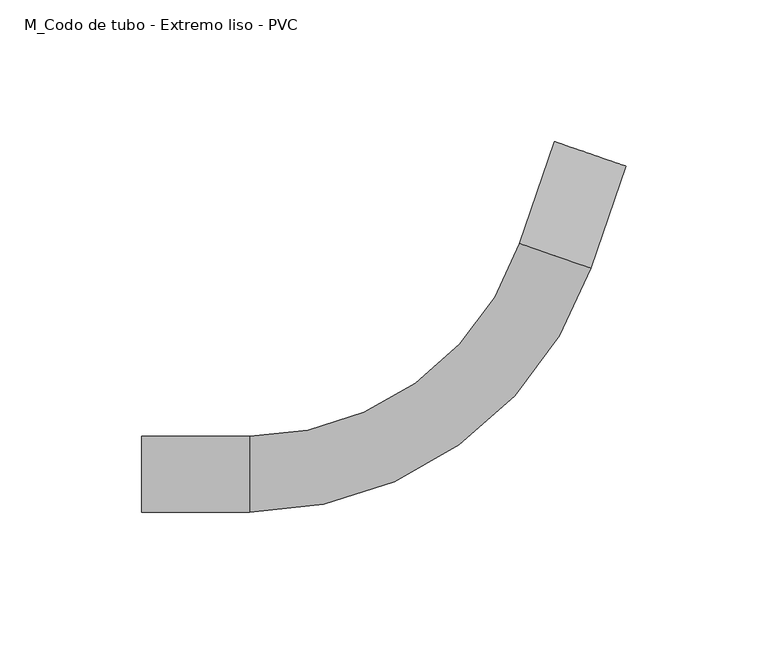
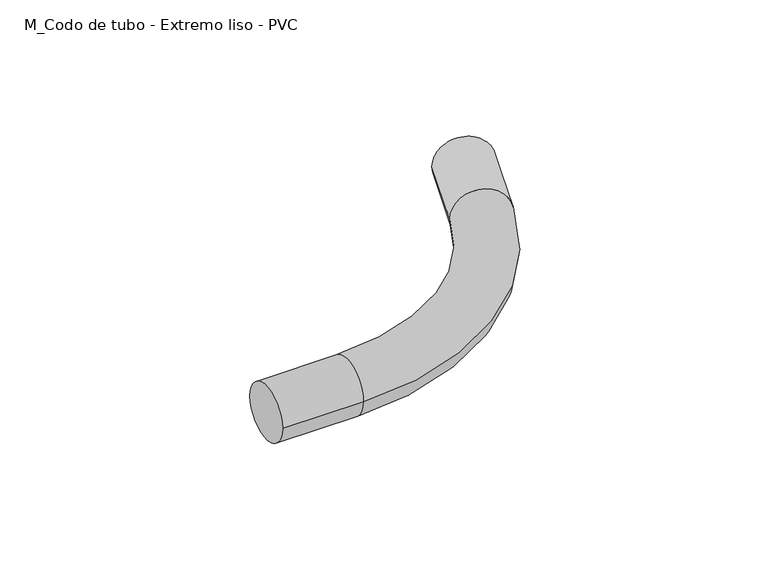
"""IFC4 building model written with IfcOpenShell, lengths in millimetres: cable carrier fitting geometry, M_Codo de tubo - Extremo liso - PVC : CODO ILUMINACION."""

import ifcopenshell
import ifcopenshell.guid

model = None  # the IFC model being written
_history = None  # IfcOwnerHistory: only IFC2X3 demands one
_inside = {}  # id of a spatial element -> (the spatial element, [elements in it])
_under = {}  # id of a project, library or spatial element -> (it, [spatial elements below it])
_declared = {}  # id of a project -> (the project, [libraries it declares])
_typed = {}  # id of a type object -> (the type object, [elements of that type])
_made_of = {}  # id of a material, layer set ... -> (it, [elements and type objects made of it])


def new_model(schema):
    """Start an empty IFC model of exactly this schema.

    Asked for "IFC4X3", IfcOpenShell would pick the latest addendum, in which some entities
    have other attributes; the version numbers below select the first issue.
    IFC2X3 requires an IfcOwnerHistory on every rooted entity: one is made here for all.
    """
    global model, _history
    if schema == "IFC4X3":
        model = ifcopenshell.file(schema_version=(4, 3, 0, 0))
    else:
        model = ifcopenshell.file(schema=schema)
    _inside.clear()
    _under.clear()
    _declared.clear()
    _typed.clear()
    _made_of.clear()
    _history = None
    if model.schema == "IFC2X3":
        org = make("IfcOrganization", Name="unknown")
        user = make(
            "IfcPersonAndOrganization",
            ThePerson=make("IfcPerson", FamilyName="unknown"),
            TheOrganization=org,
        )
        app = make(
            "IfcApplication",
            ApplicationDeveloper=org,
            Version="unknown",
            ApplicationFullName="unknown",
            ApplicationIdentifier="unknown",
        )
        _history = make(
            "IfcOwnerHistory",
            OwningUser=user,
            OwningApplication=app,
            ChangeAction="ADDED",
            CreationDate=0,
        )
    return model


def make(cls, **values):
    """One entity of the class cls with the attributes given. An attribute that is None is left unset."""
    return model.create_entity(
        cls, **{name: value for name, value in values.items() if value is not None}
    )


def rooted(cls, **values):
    """An entity with a GlobalId (a new one), such as an element, a storey or a relation."""
    return make(cls, GlobalId=ifcopenshell.guid.new(), OwnerHistory=_history, **values)


def si_unit(unit_type, name, prefix=None):
    """IfcSIUnit, for example si_unit("LENGTHUNIT", "METRE", prefix="MILLI")."""
    return make("IfcSIUnit", UnitType=unit_type, Prefix=prefix, Name=name)


def assignment(units):
    """IfcUnitAssignment: the units of a project."""
    return None if units is None else make("IfcUnitAssignment", Units=units)


def point(xyz):
    """IfcCartesianPoint."""
    return None if xyz is None else make("IfcCartesianPoint", Coordinates=xyz)


def direction(xyz):
    """IfcDirection."""
    return None if xyz is None else make("IfcDirection", DirectionRatios=xyz)


def frame(location, z_axis=None, x_axis=None):
    """IfcAxis2Placement3D, a coordinate frame: its origin and axes. An axis left out is left unset."""
    return make(
        "IfcAxis2Placement3D",
        Location=point(location),
        Axis=direction(z_axis),
        RefDirection=direction(x_axis),
    )


def origin():
    """The frame at (0, 0, 0) with its axes left unset."""
    return frame((0.0, 0.0, 0.0))


def place(relative_to, where):
    """IfcLocalPlacement: puts the frame where relative to a parent placement (None: the world)."""
    return make(
        "IfcLocalPlacement", PlacementRelTo=relative_to, RelativePlacement=where
    )


def context(
    kind, dimensions, precision=None, world=None, true_north=None, identifier=None
):
    """IfcGeometricRepresentationContext, for example the 3D "Model" context."""
    return make(
        "IfcGeometricRepresentationContext",
        ContextIdentifier=identifier,
        ContextType=kind,
        CoordinateSpaceDimension=dimensions,
        Precision=precision,
        WorldCoordinateSystem=world,
        TrueNorth=true_north,
    )


def project(units=None, contexts=None):
    """IfcProject with its units and contexts."""
    return rooted(
        "IfcProject",
        Name="project",
        RepresentationContexts=contexts,
        UnitsInContext=assignment(units),
    )


def spatial(cls, under=None, at=None, **own):
    """A site, building, storey or space (cls), placed at a placement, below another one or the project."""
    s = rooted(cls, ObjectPlacement=at, **own)
    if under is not None:
        _under.setdefault(under.id(), (under, []))[1].append(s)
    return s


def circle_curve(where, radius):
    """IfcCircle in the frame where."""
    return make("IfcCircle", Position=where, Radius=radius)


def ellipse_curve(where, semi_axis1, semi_axis2):
    """IfcEllipse in the frame where."""
    return make(
        "IfcEllipse", Position=where, SemiAxis1=semi_axis1, SemiAxis2=semi_axis2
    )


def trimmed(basis, trim1, trim2, sense, master):
    """IfcTrimmedCurve: the piece of a basis curve between two trims."""
    return make(
        "IfcTrimmedCurve",
        BasisCurve=basis,
        Trim1=trim1,
        Trim2=trim2,
        SenseAgreement=sense,
        MasterRepresentation=master,
    )


def shape(context_of_items, identifier, shape_type, items):
    """IfcShapeRepresentation: the items that make up one representation, for example the "Body"."""
    return make(
        "IfcShapeRepresentation",
        ContextOfItems=context_of_items,
        RepresentationIdentifier=identifier,
        RepresentationType=shape_type,
        Items=items,
    )


def source(mapping_origin, context_of_items, identifier, shape_type, items):
    """IfcRepresentationMap: a shape defined once, which mapped items show again and again."""
    return make(
        "IfcRepresentationMap",
        MappingOrigin=mapping_origin,
        MappedRepresentation=shape(context_of_items, identifier, shape_type, items),
    )


def transform(
    local_origin,
    x_axis=None,
    y_axis=None,
    z_axis=None,
    scale=None,
    scale2=None,
    scale3=None,
    uniform=True,
):
    """IfcCartesianTransformationOperator3D, or its non-uniform kind. x_axis, y_axis, z_axis: its Axis1, 2, 3."""
    if uniform:
        return make(
            "IfcCartesianTransformationOperator3D",
            Axis1=direction(x_axis),
            Axis2=direction(y_axis),
            LocalOrigin=point(local_origin),
            Scale=scale,
            Axis3=direction(z_axis),
        )
    return make(
        "IfcCartesianTransformationOperator3DnonUniform",
        Axis1=direction(x_axis),
        Axis2=direction(y_axis),
        LocalOrigin=point(local_origin),
        Scale=scale,
        Axis3=direction(z_axis),
        Scale2=scale2,
        Scale3=scale3,
    )


def mapped(mapping_source, mapping_target):
    """IfcMappedItem: shows the shape of a source again, moved by a transform."""
    return make(
        "IfcMappedItem", MappingSource=mapping_source, MappingTarget=mapping_target
    )


def made_of(thing, what):
    """Note that an element or type object is made of a material, layer set ...; save() writes the relation."""
    if what is not None:
        _made_of.setdefault(what.id(), (what, []))[1].append(thing)
    return thing


def element(
    cls,
    number,
    at=None,
    inside=None,
    cuts=None,
    type_object=None,
    material=None,
    context=None,
    identifier="Body",
    shape_type=None,
    held_by="IfcProductDefinitionShape",
    body=None,
    shapes=None,
    **own,
):
    """One element of the class cls, such as IfcWall. Its Tag is "e" and its number.

    at: its placement. inside: the storey or other place that contains it. cuts: it is an
    opening in that element (IfcRelVoidsElement). A single representation is given by context,
    identifier, shape_type and body (its items); several are given by shapes. held_by: the class
    of the entity that holds the representations. save() writes the other relations.
    """
    e = rooted(cls, Tag="e%d" % number, ObjectPlacement=at, **own)
    if body is not None:
        shapes = [shape(context, identifier, shape_type, body)]
    if shapes is not None:
        e.Representation = make(held_by, Representations=shapes)
    if inside is not None:
        _inside.setdefault(inside.id(), (inside, []))[1].append(e)
    if cuts is not None:
        rooted(
            "IfcRelVoidsElement", RelatingBuildingElement=cuts, RelatedOpeningElement=e
        )
    if type_object is not None:
        _typed.setdefault(type_object.id(), (type_object, []))[1].append(e)
    return made_of(e, material)


def aggregate(whole, parts):
    """IfcRelAggregates: a whole, such as a stair, and the parts it consists of."""
    return rooted("IfcRelAggregates", RelatingObject=whole, RelatedObjects=parts)


def save(model, path):
    """Write the relations noted so far, then the file.

    IfcRelAggregates (storeys below a building ...), IfcRelContainedInSpatialStructure (elements
    in a storey), IfcRelDefinesByType, IfcRelAssociatesMaterial and IfcRelDeclares: one each for
    every whole, place, type object, material and project.
    """
    for whole, parts in _under.values():
        aggregate(whole, parts)
    for where, things in _inside.values():
        rooted(
            "IfcRelContainedInSpatialStructure",
            RelatedElements=things,
            RelatingStructure=where,
        )
    for kind, things in _typed.values():
        rooted("IfcRelDefinesByType", RelatedObjects=things, RelatingType=kind)
    for what, things in _made_of.values():
        rooted("IfcRelAssociatesMaterial", RelatedObjects=things, RelatingMaterial=what)
    for by, libraries in _declared.values():
        rooted("IfcRelDeclares", RelatingContext=by, RelatedDefinitions=libraries)
    model.write(path)


def plane_surface(at):
    """IfcPlane: the flat surface through the origin of the frame at, square to its z axis."""
    return make("IfcPlane", Position=at)


def cylinder_surface(at, radius):
    """IfcCylindricalSurface: all points at the distance radius from the z axis of the frame at."""
    return make("IfcCylindricalSurface", Position=at, Radius=radius)


def revolved_surface(curve, axis_point, axis_direction):
    """IfcSurfaceOfRevolution: the curve turned about the line through axis_point along axis_direction."""
    return make(
        "IfcSurfaceOfRevolution",
        SweptCurve=make("IfcArbitraryOpenProfileDef", ProfileType="CURVE", Curve=curve),
        AxisPosition=make("IfcAxis1Placement", Location=point(axis_point), Axis=direction(axis_direction)),
    )


def advanced_brep(points, edges, surfaces, faces):
    """IfcAdvancedBrep: a solid bounded by faces that lie on surfaces and meet in shared edges.

    An edge is (start, end): straight between two places in points (the first is 0);
    or (start, end, curve); or (start, end, curve, False) where it runs against its curve.
    A face is (place in surfaces, loops), or (place, loops, False) where it looks against
    its surface's normal. A loop lists edges by number (the first is 1), with a minus sign
    where the edge is run from its end to its start. The first loop is the outer one.
    """
    corners = [point(p) for p in points]
    vertices = [make("IfcVertexPoint", VertexGeometry=c) for c in corners]
    made = []
    for start, end, *more in edges:
        made.append(
            make(
                "IfcEdgeCurve",
                EdgeStart=vertices[start],
                EdgeEnd=vertices[end],
                EdgeGeometry=more[0] if more else make("IfcPolyline", Points=[corners[start], corners[end]]),
                SameSense=more[1] if len(more) > 1 else True,
            )
        )
    hull = []
    for where, loops, *sense in faces:
        bounds = []
        for j, loop in enumerate(loops):
            ring = [make("IfcOrientedEdge", EdgeElement=made[abs(k) - 1], Orientation=k > 0) for k in loop]
            bounds.append(
                make(
                    "IfcFaceOuterBound" if j == 0 else "IfcFaceBound",
                    Bound=make("IfcEdgeLoop", EdgeList=ring),
                    Orientation=True,
                )
            )
        hull.append(make("IfcAdvancedFace", Bounds=bounds, FaceSurface=surfaces[where], SameSense=sense[0] if sense else True))
    return make("IfcAdvancedBrep", Outer=make("IfcClosedShell", CfsFaces=hull))


def m_codo_de_tubo_extremo_liso_pvc_ac3ce41b(model_context):
    return source(origin(), model_context, "Body", "AdvancedBrep", [
        advanced_brep(
        [(-119.6293977, -13.335, 0.0), (-119.6293977, 13.335, 0.0), (-81.5293977, -13.335, 0.0), (-81.5293977, 13.335, 0.0), (13.9348853, 81.4290113, 0.0), (39.1518657, 72.7461086, 0.0), (51.5560124, 108.7703663, 0.0), (26.339032, 117.453269, 0.0)],
        [
            (0, 1, circle_curve(frame((-119.6293977, 0.0, 0.0), z_axis=(-1.0, 0.0, 0.0), x_axis=(0.0, 1.0, 0.0)), 13.335)),
            (1, 0, circle_curve(frame((-119.6293977, 0.0, 0.0), z_axis=(-1.0, 0.0, 0.0), x_axis=(0.0, 1.0, 0.0)), 13.335)),
            (0, 2),
            (2, 3, circle_curve(frame((-81.5293977, 0.0, 0.0), z_axis=(-1.0, 0.0, 0.0), x_axis=(0.0, 1.0, 0.0)), 13.335)),
            (3, 1),
            (3, 2, circle_curve(frame((-81.5293977, 0.0, 0.0), z_axis=(-1.0, 0.0, 0.0), x_axis=(0.0, 1.0, 0.0)), 13.335)),
            (4, 3, circle_curve(frame((-81.5293977, 114.3, 0.0), z_axis=(0.0, 0.0, -1.0), x_axis=(0.0, -1.0, 0.0)), 100.965)),
            (2, 5, circle_curve(frame((-81.5293977, 114.3, 0.0), z_axis=(0.0, 0.0, 1.0), x_axis=(0.0, -1.0, 0.0)), 127.635)),
            (5, 4, circle_curve(frame((26.5433755, 77.0875599, 0.0), z_axis=(-0.3255681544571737, -0.945518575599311, 0.0), x_axis=(-0.945518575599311, 0.3255681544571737, 0.0)), 13.335)),
            (4, 5, circle_curve(frame((26.5433755, 77.0875599, 0.0), z_axis=(-0.3255681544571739, -0.9455185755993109, 0.0), x_axis=(-0.9455185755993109, 0.3255681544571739, 0.0)), 13.335)),
            (6, 7, circle_curve(frame((38.9475222, 113.1118177, 0.0), z_axis=(0.32556815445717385, 0.9455185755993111, 0.0), x_axis=(-0.9455185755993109, 0.3255681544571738, 0.0)), 13.335)),
            (7, 6, circle_curve(frame((38.9475222, 113.1118177, 0.0), z_axis=(0.32556815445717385, 0.9455185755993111, 0.0), x_axis=(-0.9455185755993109, 0.3255681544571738, 0.0)), 13.335)),
            (5, 6),
            (7, 4),
        ],
        [
            plane_surface(frame((-119.6293977, 0.0, 0.0), z_axis=(-1.0, 0.0, 0.0), x_axis=(0.0, 0.0, 1.0))),
            cylinder_surface(frame((-119.6293977, 0.0, 0.0), z_axis=(-1.0, 0.0, 0.0), x_axis=(0.0, 1.0, 0.0)), 13.335),
            revolved_surface(trimmed(ellipse_curve(frame((-81.5293977, 0.0, 0.0), z_axis=(-1.0, 0.0, 0.0), x_axis=(0.0, 1.0, 0.0)), 13.335, 13.335), [point((-81.5293977, -13.335, 0.0))], [point((-81.5293977, 13.335, 0.0))], True, "CARTESIAN"), (-81.5293977, 114.3, 0.0), (0.0, 0.0, 1.0)),
            revolved_surface(trimmed(ellipse_curve(frame((-81.5293977, 0.0, 0.0), z_axis=(-1.0, 0.0, 0.0), x_axis=(0.0, 1.0, 0.0)), 13.335, 13.335), [point((-81.5293977, 13.335, 0.0))], [point((-81.5293977, -13.335, 0.0))], True, "CARTESIAN"), (-81.5293977, 114.3, 0.0), (0.0, 0.0, 1.0)),
            plane_surface(frame((38.9475222, 113.1118177, 0.0), z_axis=(0.32556815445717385, 0.945518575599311, 0.0), x_axis=(0.0, 0.0, 1.0))),
            cylinder_surface(frame((26.5433755, 77.0875599, 0.0), z_axis=(-0.3255681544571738, -0.9455185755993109, 0.0), x_axis=(-0.9455185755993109, 0.3255681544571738, 0.0)), 13.335),
        ],
        [
            (0, [[1, 2]]),
            (1, [[-1, 3, 4, 5]]),
            (1, [[-2, -5, 6, -3]]),
            (2, [[7, -4, 8, 9]]),
            (3, [[-8, -6, -7, 10]]),
            (4, [[11, 12]]),
            (5, [[-9, 13, -12, 14]]),
            (5, [[-10, -14, -11, -13]]),
        ],
    ),
    ])


if __name__ == "__main__":
    model = new_model("IFC4")
    model_context = context("Model", 3, world=origin())
    ifc_project = project(units=[si_unit("LENGTHUNIT", "METRE", prefix="MILLI")], contexts=[model_context])
    site = spatial("IfcSite", under=ifc_project)
    building = spatial("IfcBuilding", under=site)
    placement = place(None, origin())
    m_codo_de_tubo_extremo_liso_pvc_shape = m_codo_de_tubo_extremo_liso_pvc_ac3ce41b(model_context)
    element("IfcCableCarrierFitting", 1, ObjectType="M_Codo de tubo - Extremo liso - PVC : CODO ILUMINACION", at=placement, inside=building, context=model_context, shape_type="MappedRepresentation", body=[
        mapped(m_codo_de_tubo_extremo_liso_pvc_shape, transform((0.0, 0.0, 0.0), x_axis=(1.0, 0.0, 0.0), y_axis=(0.0, 1.0, 0.0), z_axis=(0.0, 0.0, 1.0))),
    ])
    save(model, "model.ifc")
